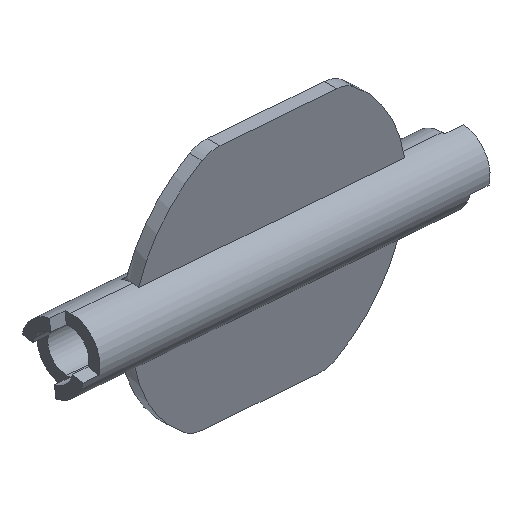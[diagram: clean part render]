
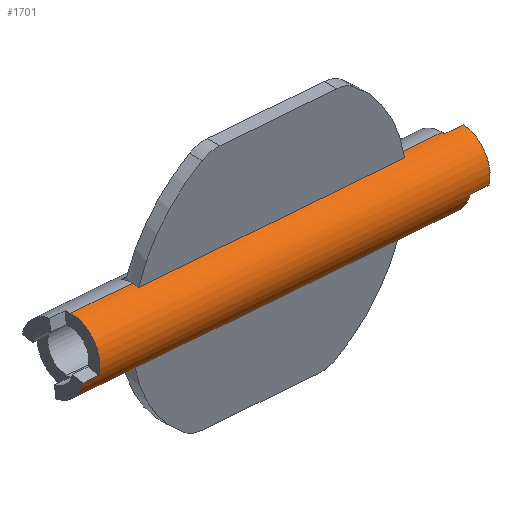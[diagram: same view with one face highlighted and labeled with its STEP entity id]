
A CAD part, isometric view. The second image highlights one B-rep face of the part: STEP entity #1701.
In plain terms, the highlighted cylindrical face has radius 5 mm (diameter 10 mm), a partial arc.
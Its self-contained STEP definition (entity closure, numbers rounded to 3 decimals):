
#1=DIRECTION('',(0.997,0.,-0.077));
#2=VECTOR('',#1,42.341);
#3=CARTESIAN_POINT('',(469.022,-1.,156.261));
#4=LINE('',#3,#2);
#37=DIRECTION('',(0.997,0.,-0.077));
#38=VECTOR('',#37,42.425);
#39=CARTESIAN_POINT('',(468.237,-1.667,146.68));
#40=LINE('',#39,#38);
#41=DIRECTION('',(-0.997,0.,0.077));
#42=VECTOR('',#41,2.5);
#43=CARTESIAN_POINT('',(458.469,-0.868,147.227));
#44=LINE('',#43,#42);
#45=DIRECTION('',(0.997,0.,-0.077));
#46=VECTOR('',#45,9.846);
#47=CARTESIAN_POINT('',(459.237,0.,157.121));
#48=LINE('',#47,#46);
#49=DIRECTION('',(0.997,0.,-0.077));
#50=VECTOR('',#49,7.004);
#51=CARTESIAN_POINT('',(511.22,0.,153.091));
#52=LINE('',#51,#50);
#53=CARTESIAN_POINT('',(517.816,0.,147.564));
#54=DIRECTION('',(0.997,0.,-0.077));
#55=DIRECTION('',(0.077,0.,0.997));
#56=AXIS2_PLACEMENT_3D('',#53,#54,#55);
#58=DIRECTION('',(-0.997,0.,0.077));
#59=VECTOR('',#58,3.);
#60=CARTESIAN_POINT('',(521.192,-0.436,152.298));
#61=LINE('',#60,#59);
#62=CARTESIAN_POINT('',(517.816,0.,147.564));
#63=DIRECTION('',(0.997,0.,-0.077));
#64=DIRECTION('',(-0.013,-0.985,-0.173));
#65=AXIS2_PLACEMENT_3D('',#62,#63,#64);
#112=CARTESIAN_POINT('',(469.022,-1.,156.261));
#113=CARTESIAN_POINT('',(469.028,-0.89,156.283));
#114=CARTESIAN_POINT('',(469.04,-0.67,156.32));
#115=CARTESIAN_POINT('',(469.051,-0.334,156.353));
#116=CARTESIAN_POINT('',(469.053,-0.112,156.36));
#117=CARTESIAN_POINT('',(469.053,0.,156.36));
#119=CARTESIAN_POINT('',(468.28,0.,
146.39));
#120=CARTESIAN_POINT('',(468.28,-0.189,146.39));
#121=CARTESIAN_POINT('',(468.276,-0.564,146.412));
#122=CARTESIAN_POINT('',(468.262,-1.124,146.509));
#123=CARTESIAN_POINT('',(468.246,-1.487,146.616));
#124=CARTESIAN_POINT('',(468.237,-1.667,146.68));
#155=DIRECTION('',(0.997,0.,-0.077));
#156=VECTOR('',#155,9.846);
#157=CARTESIAN_POINT('',(458.463,0.,147.151));
#158=LINE('',#157,#156);
#159=DIRECTION('',(0.997,0.,-0.077));
#160=VECTOR('',#159,7.004);
#161=CARTESIAN_POINT('',(510.447,0.,
143.12));
#162=LINE('',#161,#160);
#494=CARTESIAN_POINT('',(511.22,0.,153.091));
#495=CARTESIAN_POINT('',(511.22,-0.112,153.091));
#496=CARTESIAN_POINT('',(511.221,-0.334,153.083));
#497=CARTESIAN_POINT('',(511.227,-0.67,153.049));
#498=CARTESIAN_POINT('',(511.233,-0.89,153.011));
#499=CARTESIAN_POINT('',(511.236,-1.,152.988));
#515=CARTESIAN_POINT('',(510.535,-1.667,143.4));
#516=CARTESIAN_POINT('',(510.516,-1.487,143.338));
#517=CARTESIAN_POINT('',(510.483,-1.124,143.235));
#518=CARTESIAN_POINT('',(510.454,-0.564,143.141));
#519=CARTESIAN_POINT('',(510.447,-0.189,143.12));
#520=CARTESIAN_POINT('',(510.447,0.,
143.12));
#522=CARTESIAN_POINT('',(510.447,0.,
143.12));
#1093=CARTESIAN_POINT('',(458.85,0.,152.136));
#1094=DIRECTION('',(0.997,0.,-0.077));
#1095=DIRECTION('',(0.077,0.,0.997));
#1096=AXIS2_PLACEMENT_3D('',#1093,#1094,#1095);
#1121=CARTESIAN_POINT('',(458.85,0.,152.136));
#1122=DIRECTION('',(0.997,0.,-0.077));
#1123=DIRECTION('',(-0.076,-0.174,-0.982));
#1124=AXIS2_PLACEMENT_3D('',#1121,#1122,#1123);
#1147=DIRECTION('',(-0.997,0.,0.077));
#1148=VECTOR('',#1147,2.5);
#1149=CARTESIAN_POINT('',(458.783,-4.924,151.271));
#1150=LINE('',#1149,#1148);
#1160=CARTESIAN_POINT('',(456.357,0.,152.33));
#1161=DIRECTION('',(-0.997,0.,0.077));
#1162=DIRECTION('',(-0.076,-0.174,-0.982));
#1163=AXIS2_PLACEMENT_3D('',#1160,#1161,#1162);
#1222=CARTESIAN_POINT('',(520.807,0.,147.332));
#1223=DIRECTION('',(0.997,0.,-0.077));
#1224=DIRECTION('',(0.077,-0.087,0.993));
#1225=AXIS2_PLACEMENT_3D('',#1222,#1223,#1224);
#1235=DIRECTION('',(-0.997,0.,0.077));
#1236=VECTOR('',#1235,3.);
#1237=CARTESIAN_POINT('',(520.74,-4.924,146.466));
#1238=LINE('',#1237,#1236);
#1307=CARTESIAN_POINT('',(458.463,0.,147.151));
#1308=CARTESIAN_POINT('',(468.28,0.,
146.39));
#1309=VERTEX_POINT('',#1307);
#1310=VERTEX_POINT('',#1308);
#1311=CARTESIAN_POINT('',(459.237,0.,157.121));
#1312=CARTESIAN_POINT('',(469.053,0.,
156.36));
#1313=VERTEX_POINT('',#1311);
#1314=VERTEX_POINT('',#1312);
#1323=CARTESIAN_POINT('',(521.192,-0.436,
152.298));
#1324=CARTESIAN_POINT('',(520.74,-4.924,146.466));
#1325=VERTEX_POINT('',#1323);
#1326=VERTEX_POINT('',#1324);
#1327=CARTESIAN_POINT('',(518.201,-0.436,
152.53));
#1328=VERTEX_POINT('',#1327);
#1329=CARTESIAN_POINT('',(517.749,-4.924,146.698));
#1330=VERTEX_POINT('',#1329);
#1339=CARTESIAN_POINT('',(455.977,-0.868,
147.42));
#1340=CARTESIAN_POINT('',(456.29,-4.924,151.464));
#1341=VERTEX_POINT('',#1339);
#1342=VERTEX_POINT('',#1340);
#1343=CARTESIAN_POINT('',(458.469,-0.868,
147.227));
#1344=VERTEX_POINT('',#1343);
#1345=CARTESIAN_POINT('',(458.783,-4.924,151.271));
#1346=VERTEX_POINT('',#1345);
#1379=CARTESIAN_POINT('',(469.022,-1.,156.261));
#1380=CARTESIAN_POINT('',(511.236,-1.,152.988));
#1381=VERTEX_POINT('',#1379);
#1382=VERTEX_POINT('',#1380);
#1387=VERTEX_POINT('',#522);
#1388=VERTEX_POINT('',#494);
#1389=CARTESIAN_POINT('',(517.43,0.,142.579));
#1390=VERTEX_POINT('',#1389);
#1391=CARTESIAN_POINT('',(518.203,0.,152.549));
#1392=VERTEX_POINT('',#1391);
#1405=CARTESIAN_POINT('',(468.237,-1.667,146.68));
#1406=CARTESIAN_POINT('',(510.535,-1.667,143.4));
#1407=VERTEX_POINT('',#1405);
#1408=VERTEX_POINT('',#1406);
#1655=CARTESIAN_POINT('',(458.85,0.,152.136));
#1656=DIRECTION('',(0.997,0.,-0.077));
#1657=DIRECTION('',(-0.077,0.,-0.997));
#1658=AXIS2_PLACEMENT_3D('',#1655,#1656,#1657);
#1659=CYLINDRICAL_SURFACE('',#1658,5.);
#1661=ORIENTED_EDGE('',*,*,#1660,.F.);
#1663=ORIENTED_EDGE('',*,*,#1662,.F.);
#1665=ORIENTED_EDGE('',*,*,#1664,.F.);
#1667=ORIENTED_EDGE('',*,*,#1666,.F.);
#1669=ORIENTED_EDGE('',*,*,#1668,.T.);
#1671=ORIENTED_EDGE('',*,*,#1670,.T.);
#1673=ORIENTED_EDGE('',*,*,#1672,.F.);
#1675=ORIENTED_EDGE('',*,*,#1674,.F.);
#1677=ORIENTED_EDGE('',*,*,#1676,.T.);
#1679=ORIENTED_EDGE('',*,*,#1678,.F.);
#1680=ORIENTED_EDGE('',*,*,#1620,.T.);
#1682=ORIENTED_EDGE('',*,*,#1681,.F.);
#1684=ORIENTED_EDGE('',*,*,#1683,.T.);
#1686=ORIENTED_EDGE('',*,*,#1685,.T.);
#1688=ORIENTED_EDGE('',*,*,#1687,.F.);
#1690=ORIENTED_EDGE('',*,*,#1689,.T.);
#1692=ORIENTED_EDGE('',*,*,#1691,.T.);
#1694=ORIENTED_EDGE('',*,*,#1693,.T.);
#1696=ORIENTED_EDGE('',*,*,#1695,.F.);
#1698=ORIENTED_EDGE('',*,*,#1697,.F.);
#1699=EDGE_LOOP('',(#1661,#1663,#1665,#1667,#1669,#1671,#1673,#1675,#1677,#1679,
#1680,#1682,#1684,#1686,#1688,#1690,#1692,#1694,#1696,#1698));
#1700=FACE_OUTER_BOUND('',#1699,.F.);
#1701=ADVANCED_FACE('',(#1700),#1659,.T.);
#57=CIRCLE('',#56,5.);
#66=CIRCLE('',#65,5.);
#118=B_SPLINE_CURVE_WITH_KNOTS('',3,(#112,#113,#114,#115,#116,#117),
.UNSPECIFIED.,.F.,.F.,(4,1,1,4),(0.,0.333,0.667,1.),
.UNSPECIFIED.);
#125=B_SPLINE_CURVE_WITH_KNOTS('',3,(#119,#120,#121,#122,#123,#124),
.UNSPECIFIED.,.F.,.F.,(4,1,1,4),(0.,0.333,0.667,1.),
.UNSPECIFIED.);
#500=B_SPLINE_CURVE_WITH_KNOTS('',3,(#494,#495,#496,#497,#498,#499),
.UNSPECIFIED.,.F.,.F.,(4,1,1,4),(0.,0.333,0.667,1.),
.UNSPECIFIED.);
#521=B_SPLINE_CURVE_WITH_KNOTS('',3,(#515,#516,#517,#518,#519,#520),
.UNSPECIFIED.,.F.,.F.,(4,1,1,4),(0.,0.333,0.667,1.),
.UNSPECIFIED.);
#1097=CIRCLE('',#1096,5.);
#1125=CIRCLE('',#1124,5.);
#1164=CIRCLE('',#1163,5.);
#1226=CIRCLE('',#1225,5.);
#1620=EDGE_CURVE('',#1381,#1382,#4,.T.);
#1660=EDGE_CURVE('',#1407,#1408,#40,.T.);
#1662=EDGE_CURVE('',#1310,#1407,#125,.T.);
#1664=EDGE_CURVE('',#1309,#1310,#158,.T.);
#1666=EDGE_CURVE('',#1344,#1309,#1125,.T.);
#1668=EDGE_CURVE('',#1344,#1341,#44,.T.);
#1670=EDGE_CURVE('',#1341,#1342,#1164,.T.);
#1672=EDGE_CURVE('',#1346,#1342,#1150,.T.);
#1674=EDGE_CURVE('',#1313,#1346,#1097,.T.);
#1676=EDGE_CURVE('',#1313,#1314,#48,.T.);
#1678=EDGE_CURVE('',#1381,#1314,#118,.T.);
#1681=EDGE_CURVE('',#1388,#1382,#500,.T.);
#1683=EDGE_CURVE('',#1388,#1392,#52,.T.);
#1685=EDGE_CURVE('',#1392,#1328,#57,.T.);
#1687=EDGE_CURVE('',#1325,#1328,#61,.T.);
#1689=EDGE_CURVE('',#1325,#1326,#1226,.T.);
#1691=EDGE_CURVE('',#1326,#1330,#1238,.T.);
#1693=EDGE_CURVE('',#1330,#1390,#66,.T.);
#1695=EDGE_CURVE('',#1387,#1390,#162,.T.);
#1697=EDGE_CURVE('',#1408,#1387,#521,.T.);
